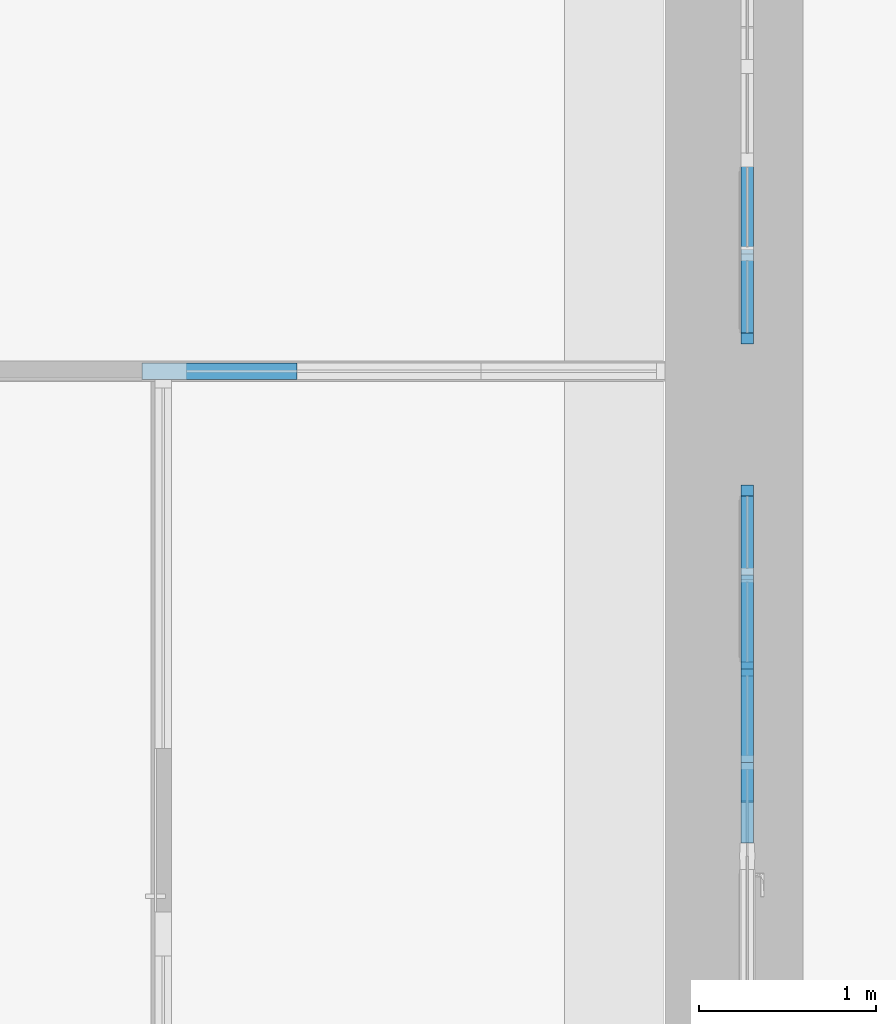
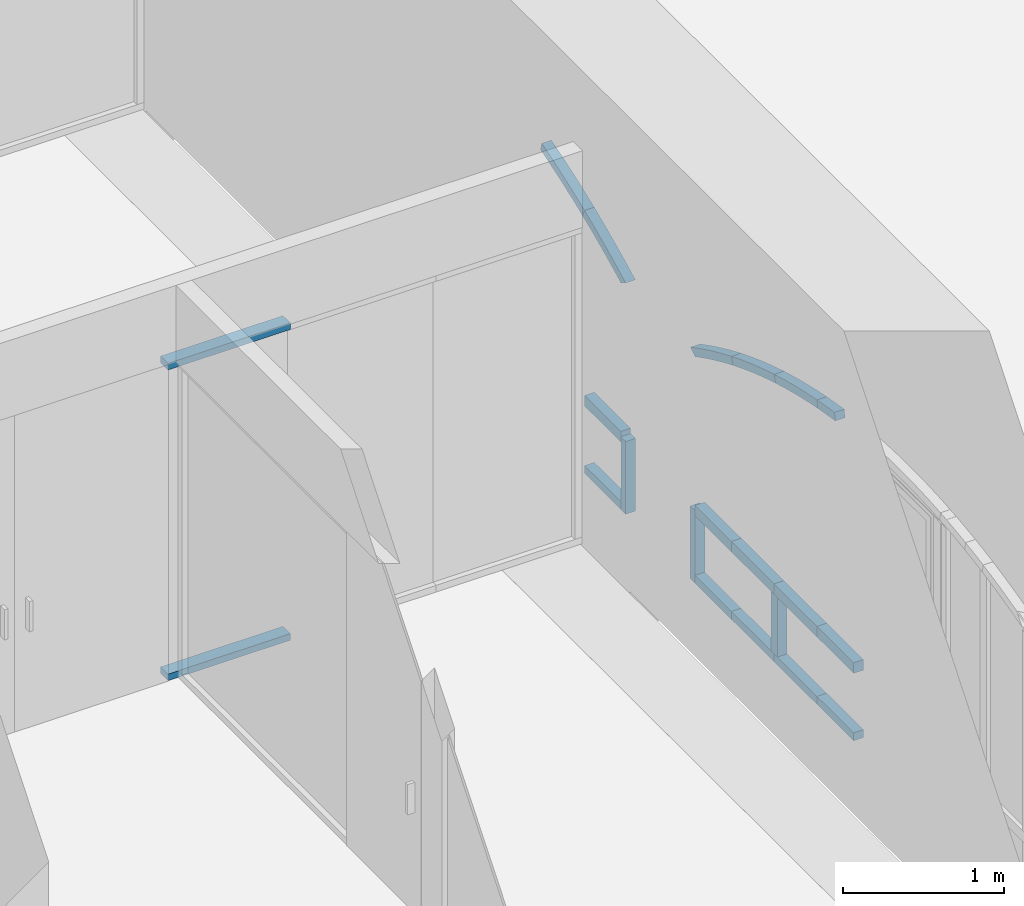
# One storey, part 26 of 88: 21 members, 3 elements without a shape of their own.
"""IFC2X3 building model written with IfcOpenShell, lengths in millimetres."""

import ifcopenshell
import ifcopenshell.guid

model = None  # the IFC model being written
_history = None  # IfcOwnerHistory: only IFC2X3 demands one
_inside = {}  # id of a spatial element -> (the spatial element, [elements in it])
_under = {}  # id of a project, library or spatial element -> (it, [spatial elements below it])
_declared = {}  # id of a project -> (the project, [libraries it declares])
_typed = {}  # id of a type object -> (the type object, [elements of that type])
_made_of = {}  # id of a material, layer set ... -> (it, [elements and type objects made of it])


def new_model(schema):
    """Start an empty IFC model of exactly this schema.

    Asked for "IFC4X3", IfcOpenShell would pick the latest addendum, in which some entities
    have other attributes; the version numbers below select the first issue.
    IFC2X3 requires an IfcOwnerHistory on every rooted entity: one is made here for all.
    """
    global model, _history
    if schema == "IFC4X3":
        model = ifcopenshell.file(schema_version=(4, 3, 0, 0))
    else:
        model = ifcopenshell.file(schema=schema)
    _inside.clear()
    _under.clear()
    _declared.clear()
    _typed.clear()
    _made_of.clear()
    _history = None
    if model.schema == "IFC2X3":
        org = make("IfcOrganization", Name="unknown")
        user = make(
            "IfcPersonAndOrganization",
            ThePerson=make("IfcPerson", FamilyName="unknown"),
            TheOrganization=org,
        )
        app = make(
            "IfcApplication",
            ApplicationDeveloper=org,
            Version="unknown",
            ApplicationFullName="unknown",
            ApplicationIdentifier="unknown",
        )
        _history = make(
            "IfcOwnerHistory",
            OwningUser=user,
            OwningApplication=app,
            ChangeAction="ADDED",
            CreationDate=0,
        )
    return model


def make(cls, **values):
    """One entity of the class cls with the attributes given. An attribute that is None is left unset."""
    return model.create_entity(
        cls, **{name: value for name, value in values.items() if value is not None}
    )


def entity(cls, *values):
    """Any entity or typed value of the class cls, its attributes in the order of the schema. None: left unset."""
    e = model.create_entity(cls)
    for i, value in enumerate(values):
        if value is not None:
            e[i] = value
    return e


def rooted(cls, **values):
    """An entity with a GlobalId (a new one), such as an element, a storey or a relation."""
    return make(cls, GlobalId=ifcopenshell.guid.new(), OwnerHistory=_history, **values)


def si_unit(unit_type, name, prefix=None):
    """IfcSIUnit, for example si_unit("LENGTHUNIT", "METRE", prefix="MILLI")."""
    return make("IfcSIUnit", UnitType=unit_type, Prefix=prefix, Name=name)


def converted_unit(unit_type, name, factor, base, dimensions=None, offset=None):
    """IfcConversionBasedUnit, such as the inch: factor (a typed value) times the base unit."""
    return make(
        "IfcConversionBasedUnit"
        if offset is None
        else "IfcConversionBasedUnitWithOffset",
        ConversionOffset=offset,
        Dimensions=None
        if dimensions is None
        else entity("IfcDimensionalExponents", *dimensions),
        UnitType=unit_type,
        Name=name,
        ConversionFactor=make(
            "IfcMeasureWithUnit", ValueComponent=factor, UnitComponent=base
        ),
    )


def derived_unit(unit_type, elements):
    """IfcDerivedUnit: a product of units, each with its exponent."""
    return make(
        "IfcDerivedUnit",
        Elements=[
            make("IfcDerivedUnitElement", Unit=unit, Exponent=power)
            for unit, power in elements
        ],
        UnitType=unit_type,
    )


def assignment(units):
    """IfcUnitAssignment: the units of a project."""
    return None if units is None else make("IfcUnitAssignment", Units=units)


def point(xyz):
    """IfcCartesianPoint."""
    return None if xyz is None else make("IfcCartesianPoint", Coordinates=xyz)


def direction(xyz):
    """IfcDirection."""
    return None if xyz is None else make("IfcDirection", DirectionRatios=xyz)


def frame(location, z_axis=None, x_axis=None):
    """IfcAxis2Placement3D, a coordinate frame: its origin and axes. An axis left out is left unset."""
    return make(
        "IfcAxis2Placement3D",
        Location=point(location),
        Axis=direction(z_axis),
        RefDirection=direction(x_axis),
    )


def frame_2d(location, x_axis=None):
    """IfcAxis2Placement2D, a coordinate frame in the plane: its origin and x axis."""
    return make(
        "IfcAxis2Placement2D", Location=point(location), RefDirection=direction(x_axis)
    )


def origin():
    """The frame at (0, 0, 0) with its axes left unset."""
    return frame((0.0, 0.0, 0.0))


def place(relative_to, where):
    """IfcLocalPlacement: puts the frame where relative to a parent placement (None: the world)."""
    return make(
        "IfcLocalPlacement", PlacementRelTo=relative_to, RelativePlacement=where
    )


def context(
    kind, dimensions, precision=None, world=None, true_north=None, identifier=None
):
    """IfcGeometricRepresentationContext, for example the 3D "Model" context."""
    return make(
        "IfcGeometricRepresentationContext",
        ContextIdentifier=identifier,
        ContextType=kind,
        CoordinateSpaceDimension=dimensions,
        Precision=precision,
        WorldCoordinateSystem=world,
        TrueNorth=true_north,
    )


def subcontext(parent, identifier, kind, view, scale=None):
    """IfcGeometricRepresentationSubContext, for example "Body" below "Model"."""
    return make(
        "IfcGeometricRepresentationSubContext",
        ContextIdentifier=identifier,
        ContextType=kind,
        ParentContext=parent,
        TargetScale=scale,
        TargetView=view,
    )


def project(units=None, contexts=None):
    """IfcProject with its units and contexts."""
    return rooted(
        "IfcProject",
        Name="project",
        RepresentationContexts=contexts,
        UnitsInContext=assignment(units),
    )


def spatial(cls, under=None, at=None, **own):
    """A site, building, storey or space (cls), placed at a placement, below another one or the project."""
    s = rooted(cls, ObjectPlacement=at, **own)
    if under is not None:
        _under.setdefault(under.id(), (under, []))[1].append(s)
    return s


def polyline(points):
    """IfcPolyline through the points."""
    return make("IfcPolyline", Points=[point(p) for p in points])


def circle_curve(where, radius):
    """IfcCircle in the frame where."""
    return make("IfcCircle", Position=where, Radius=radius)


def parameter(value):
    """IfcParameterValue: where a trimmed curve begins or ends, as a parameter of its basis curve."""
    return model.create_entity("IfcParameterValue", value)


def trimmed(basis, trim1, trim2, sense, master):
    """IfcTrimmedCurve: the piece of a basis curve between two trims."""
    return make(
        "IfcTrimmedCurve",
        BasisCurve=basis,
        Trim1=trim1,
        Trim2=trim2,
        SenseAgreement=sense,
        MasterRepresentation=master,
    )


def segment(curve, same_sense, transition):
    """IfcCompositeCurveSegment."""
    return make(
        "IfcCompositeCurveSegment",
        Transition=transition,
        SameSense=same_sense,
        ParentCurve=curve,
    )


def composite_curve(segments, self_intersect=None):
    """IfcCompositeCurve: segments joined end to end."""
    return make("IfcCompositeCurve", Segments=segments, SelfIntersect=self_intersect)


def profile(cls, at=None, kind="AREA", **sizes):
    """A parametric profile (cls). Its sizes go by their IFC names, for example OverallWidth=200.0."""
    return make(cls, ProfileType=kind, Position=at, **sizes)


def rectangle(**sizes):
    """IfcRectangleProfileDef."""
    return profile("IfcRectangleProfileDef", **sizes)


def outline(outer, holes=None, kind="AREA"):
    """IfcArbitraryClosedProfileDef: a profile drawn as a closed curve; with holes, ...WithVoids."""
    if holes is None:
        return make("IfcArbitraryClosedProfileDef", ProfileType=kind, OuterCurve=outer)
    return make(
        "IfcArbitraryProfileDefWithVoids",
        ProfileType=kind,
        OuterCurve=outer,
        InnerCurves=holes,
    )


def extrude(swept, where, along, depth):
    """IfcExtrudedAreaSolid: the profile swept, set in the frame where, extruded along a direction by depth."""
    return make(
        "IfcExtrudedAreaSolid",
        SweptArea=swept,
        Position=where,
        ExtrudedDirection=direction(along),
        Depth=depth,
    )


def shape(context_of_items, identifier, shape_type, items):
    """IfcShapeRepresentation: the items that make up one representation, for example the "Body"."""
    return make(
        "IfcShapeRepresentation",
        ContextOfItems=context_of_items,
        RepresentationIdentifier=identifier,
        RepresentationType=shape_type,
        Items=items,
    )


def source(mapping_origin, context_of_items, identifier, shape_type, items):
    """IfcRepresentationMap: a shape defined once, which mapped items show again and again."""
    return make(
        "IfcRepresentationMap",
        MappingOrigin=mapping_origin,
        MappedRepresentation=shape(context_of_items, identifier, shape_type, items),
    )


def transform(
    local_origin,
    x_axis=None,
    y_axis=None,
    z_axis=None,
    scale=None,
    scale2=None,
    scale3=None,
    uniform=True,
):
    """IfcCartesianTransformationOperator3D, or its non-uniform kind. x_axis, y_axis, z_axis: its Axis1, 2, 3."""
    if uniform:
        return make(
            "IfcCartesianTransformationOperator3D",
            Axis1=direction(x_axis),
            Axis2=direction(y_axis),
            LocalOrigin=point(local_origin),
            Scale=scale,
            Axis3=direction(z_axis),
        )
    return make(
        "IfcCartesianTransformationOperator3DnonUniform",
        Axis1=direction(x_axis),
        Axis2=direction(y_axis),
        LocalOrigin=point(local_origin),
        Scale=scale,
        Axis3=direction(z_axis),
        Scale2=scale2,
        Scale3=scale3,
    )


def mapped(mapping_source, mapping_target):
    """IfcMappedItem: shows the shape of a source again, moved by a transform."""
    return make(
        "IfcMappedItem", MappingSource=mapping_source, MappingTarget=mapping_target
    )


def material(Name=None, Category=None):
    """IfcMaterial."""
    return make("IfcMaterial", Name=Name, Category=Category)


def made_of(thing, what):
    """Note that an element or type object is made of a material, layer set ...; save() writes the relation."""
    if what is not None:
        _made_of.setdefault(what.id(), (what, []))[1].append(thing)
    return thing


def type_object(cls, material=None, **own):
    """A type object (cls), such as IfcWallType, which elements share."""
    return made_of(rooted(cls, **own), material)


def type_shapes(of_type, sources):
    """Give a type object the sources (RepresentationMaps) that its elements show as mapped items."""
    of_type.RepresentationMaps = sources


def element(
    cls,
    number,
    at=None,
    inside=None,
    cuts=None,
    type_object=None,
    material=None,
    context=None,
    identifier="Body",
    shape_type=None,
    held_by="IfcProductDefinitionShape",
    body=None,
    shapes=None,
    **own,
):
    """One element of the class cls, such as IfcWall. Its Tag is "e" and its number.

    at: its placement. inside: the storey or other place that contains it. cuts: it is an
    opening in that element (IfcRelVoidsElement). A single representation is given by context,
    identifier, shape_type and body (its items); several are given by shapes. held_by: the class
    of the entity that holds the representations. save() writes the other relations.
    """
    e = rooted(cls, Tag="e%d" % number, ObjectPlacement=at, **own)
    if body is not None:
        shapes = [shape(context, identifier, shape_type, body)]
    if shapes is not None:
        e.Representation = make(held_by, Representations=shapes)
    if inside is not None:
        _inside.setdefault(inside.id(), (inside, []))[1].append(e)
    if cuts is not None:
        rooted(
            "IfcRelVoidsElement", RelatingBuildingElement=cuts, RelatedOpeningElement=e
        )
    if type_object is not None:
        _typed.setdefault(type_object.id(), (type_object, []))[1].append(e)
    return made_of(e, material)


def aggregate(whole, parts):
    """IfcRelAggregates: a whole, such as a stair, and the parts it consists of."""
    return rooted("IfcRelAggregates", RelatingObject=whole, RelatedObjects=parts)


def save(model, path):
    """Write the relations noted so far, then the file.

    IfcRelAggregates (storeys below a building ...), IfcRelContainedInSpatialStructure (elements
    in a storey), IfcRelDefinesByType, IfcRelAssociatesMaterial and IfcRelDeclares: one each for
    every whole, place, type object, material and project.
    """
    for whole, parts in _under.values():
        aggregate(whole, parts)
    for where, things in _inside.values():
        rooted(
            "IfcRelContainedInSpatialStructure",
            RelatedElements=things,
            RelatingStructure=where,
        )
    for kind, things in _typed.values():
        rooted("IfcRelDefinesByType", RelatedObjects=things, RelatingType=kind)
    for what, things in _made_of.values():
        rooted("IfcRelAssociatesMaterial", RelatedObjects=things, RelatingMaterial=what)
    for by, libraries in _declared.values():
        rooted("IfcRelDeclares", RelatingContext=by, RelatedDefinitions=libraries)
    model.write(path)


model = new_model("IFC2X3")

# Units and contexts
model_context = context("Model", 3, precision=0.01, world=origin(), true_north=direction((6.123031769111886e-17, 1.0)))
body_context = subcontext(model_context, "Body", "Model", "MODEL_VIEW")
ifc_project = project(units=[si_unit("LENGTHUNIT", "METRE", prefix="MILLI"), si_unit("AREAUNIT", "SQUARE_METRE"), si_unit("VOLUMEUNIT", "CUBIC_METRE"), converted_unit("PLANEANGLEUNIT", "DEGREE", entity("IfcPlaneAngleMeasure", 0.017453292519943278), si_unit("PLANEANGLEUNIT", "RADIAN"), dimensions=[0, 0, 0, 0, 0, 0, 0]), si_unit("MASSUNIT", "GRAM", prefix="KILO"), derived_unit("MASSDENSITYUNIT", [(si_unit("MASSUNIT", "GRAM", prefix="KILO"), 1), (si_unit("LENGTHUNIT", "METRE"), -3)]), derived_unit("IONCONCENTRATIONUNIT", [(si_unit("MASSUNIT", "GRAM", prefix="KILO"), 1), (si_unit("LENGTHUNIT", "METRE"), -3)]), derived_unit("MOMENTOFINERTIAUNIT", [(si_unit("LENGTHUNIT", "METRE"), 4)]), si_unit("TIMEUNIT", "SECOND"), si_unit("FREQUENCYUNIT", "HERTZ"), si_unit("THERMODYNAMICTEMPERATUREUNIT", "DEGREE_CELSIUS"), derived_unit("THERMALTRANSMITTANCEUNIT", [(si_unit("MASSUNIT", "GRAM", prefix="KILO"), 1), (si_unit("THERMODYNAMICTEMPERATUREUNIT", "KELVIN"), -1), (si_unit("TIMEUNIT", "SECOND"), -3)]), derived_unit("THERMALCONDUCTANCEUNIT", [(si_unit("MASSUNIT", "GRAM", prefix="KILO"), 1), (si_unit("THERMODYNAMICTEMPERATUREUNIT", "KELVIN"), -1), (si_unit("TIMEUNIT", "SECOND"), -3), (si_unit("LENGTHUNIT", "METRE"), 1)]), derived_unit("VOLUMETRICFLOWRATEUNIT", [(si_unit("LENGTHUNIT", "METRE", prefix="DECI"), 3), (si_unit("TIMEUNIT", "SECOND"), -1)]), derived_unit("MASSFLOWRATEUNIT", [(si_unit("MASSUNIT", "GRAM", prefix="KILO"), 1), (si_unit("TIMEUNIT", "SECOND"), -1)]), derived_unit("ROTATIONALFREQUENCYUNIT", [(si_unit("TIMEUNIT", "SECOND"), -1)]), si_unit("ELECTRICCURRENTUNIT", "AMPERE"), si_unit("ELECTRICVOLTAGEUNIT", "VOLT"), si_unit("POWERUNIT", "WATT"), si_unit("FORCEUNIT", "NEWTON", prefix="KILO"), si_unit("ILLUMINANCEUNIT", "LUX"), si_unit("LUMINOUSFLUXUNIT", "LUMEN"), si_unit("LUMINOUSINTENSITYUNIT", "CANDELA"), si_unit("ENERGYUNIT", "JOULE"), derived_unit("USERDEFINED", [(si_unit("MASSUNIT", "GRAM", prefix="KILO"), -1), (si_unit("LENGTHUNIT", "METRE"), -2), (si_unit("TIMEUNIT", "SECOND"), 3), (si_unit("LUMINOUSFLUXUNIT", "LUMEN"), 1)]), derived_unit("USERDEFINED", [(si_unit("MASSUNIT", "GRAM", prefix="KILO"), 1), (si_unit("TIMEUNIT", "SECOND"), -3), (si_unit("LENGTHUNIT", "METRE"), 3), (si_unit("ELECTRICCURRENTUNIT", "AMPERE"), -2)]), derived_unit("SOUNDPOWERUNIT", [(si_unit("MASSUNIT", "GRAM", prefix="KILO"), 1), (si_unit("TIMEUNIT", "SECOND"), -3), (si_unit("LENGTHUNIT", "METRE"), 2)]), derived_unit("SOUNDPRESSUREUNIT", [(si_unit("MASSUNIT", "GRAM", prefix="KILO"), 1), (si_unit("LENGTHUNIT", "METRE"), -1), (si_unit("TIMEUNIT", "SECOND"), -2)]), derived_unit("LINEARVELOCITYUNIT", [(si_unit("LENGTHUNIT", "METRE"), 1), (si_unit("TIMEUNIT", "SECOND"), -1)]), si_unit("PRESSUREUNIT", "PASCAL"), derived_unit("USERDEFINED", [(si_unit("MASSUNIT", "GRAM", prefix="KILO"), 1), (si_unit("LENGTHUNIT", "METRE"), -2), (si_unit("TIMEUNIT", "SECOND"), -2)]), derived_unit("LINEARFORCEUNIT", [(si_unit("MASSUNIT", "GRAM", prefix="KILO"), 1), (si_unit("TIMEUNIT", "SECOND"), -2)]), derived_unit("PLANARFORCEUNIT", [(si_unit("MASSUNIT", "GRAM", prefix="KILO"), 1), (si_unit("LENGTHUNIT", "METRE"), -1), (si_unit("TIMEUNIT", "SECOND"), -2)]), derived_unit("SPECIFICHEATCAPACITYUNIT", [(si_unit("THERMODYNAMICTEMPERATUREUNIT", "KELVIN"), -1), (si_unit("LENGTHUNIT", "METRE"), 2), (si_unit("TIMEUNIT", "SECOND"), -2)]), derived_unit("HEATFLUXDENSITYUNIT", [(si_unit("MASSUNIT", "GRAM", prefix="KILO"), 1), (si_unit("TIMEUNIT", "SECOND"), -3)]), derived_unit("HEATINGVALUEUNIT", [(si_unit("LENGTHUNIT", "METRE"), 2), (si_unit("TIMEUNIT", "SECOND"), -2)]), derived_unit("VAPORPERMEABILITYUNIT", [(si_unit("LENGTHUNIT", "METRE"), -1), (si_unit("TIMEUNIT", "SECOND"), 1)]), derived_unit("DYNAMICVISCOSITYUNIT", [(si_unit("MASSUNIT", "GRAM", prefix="KILO"), 1), (si_unit("TIMEUNIT", "SECOND"), -1), (si_unit("LENGTHUNIT", "METRE"), -1)]), derived_unit("THERMALEXPANSIONCOEFFICIENTUNIT", [(si_unit("THERMODYNAMICTEMPERATUREUNIT", "KELVIN"), -1)]), derived_unit("MODULUSOFELASTICITYUNIT", [(si_unit("MASSUNIT", "GRAM", prefix="KILO"), 1), (si_unit("LENGTHUNIT", "METRE"), -1), (si_unit("TIMEUNIT", "SECOND"), -2)]), derived_unit("ISOTHERMALMOISTURECAPACITYUNIT", [(si_unit("MASSUNIT", "GRAM", prefix="KILO"), -1), (si_unit("LENGTHUNIT", "METRE"), 3)]), derived_unit("MOISTUREDIFFUSIVITYUNIT", [(si_unit("TIMEUNIT", "SECOND"), -1), (si_unit("LENGTHUNIT", "METRE"), 2)]), derived_unit("MASSPERLENGTHUNIT", [(si_unit("MASSUNIT", "GRAM", prefix="KILO"), 1), (si_unit("LENGTHUNIT", "METRE"), -1)]), derived_unit("THERMALRESISTANCEUNIT", [(si_unit("MASSUNIT", "GRAM", prefix="KILO"), -1), (si_unit("TIMEUNIT", "SECOND"), 3), (si_unit("THERMODYNAMICTEMPERATUREUNIT", "KELVIN"), 1)]), derived_unit("ACCELERATIONUNIT", [(si_unit("LENGTHUNIT", "METRE"), 1), (si_unit("TIMEUNIT", "SECOND"), -2)]), derived_unit("ANGULARVELOCITYUNIT", [(si_unit("TIMEUNIT", "SECOND"), -1), (si_unit("PLANEANGLEUNIT", "RADIAN"), 1)]), derived_unit("LINEARSTIFFNESSUNIT", [(si_unit("MASSUNIT", "GRAM", prefix="KILO"), 1), (si_unit("TIMEUNIT", "SECOND"), -2)]), derived_unit("WARPINGCONSTANTUNIT", [(si_unit("LENGTHUNIT", "METRE"), 6)]), derived_unit("LINEARMOMENTUNIT", [(si_unit("MASSUNIT", "GRAM", prefix="KILO"), 1), (si_unit("LENGTHUNIT", "METRE"), 1), (si_unit("TIMEUNIT", "SECOND"), -2)]), derived_unit("TORQUEUNIT", [(si_unit("MASSUNIT", "GRAM", prefix="KILO"), 1), (si_unit("LENGTHUNIT", "METRE"), 2), (si_unit("TIMEUNIT", "SECOND"), -2)])], contexts=[model_context])

# Site, building, storey
site_placement = place(None, origin())
site = spatial("IfcSite", under=ifc_project, at=site_placement, Name="Default", CompositionType="ELEMENT")
building_placement = place(site_placement, origin())
building = spatial("IfcBuilding", under=site, at=building_placement, Name="Eesti Rahvusraamatukogu hoone renoveerimise projekteerimistööd", CompositionType="ELEMENT")
storey_placement = place(building_placement, origin())
storey = spatial("IfcBuildingStorey", under=building, at=storey_placement, Name="1. korrus", CompositionType="ELEMENT", Elevation=0.0)

# Curtain wall, members
curtain_wall_type_1 = type_object("IfcCurtainWallType", Name="Curtain Wall:VLS Klaasvahesein profiilita 38db", PredefinedType="NOTDEFINED")
curtain_wall_1_placement = place(storey_placement, origin())
curtain_wall_1 = element("IfcCurtainWall", 1, at=curtain_wall_1_placement, inside=storey, type_object=curtain_wall_type_1, Name="Curtain Wall:VLS Klaasvahesein profiilita 38db", ObjectType="Curtain Wall:VLS Klaasvahesein profiilita 38db")
ifc_material_1 = material(Name="Aluminum")
member_type_1 = type_object("IfcMemberType", Name="Rectangular Mullion:50mm x 92mm", PredefinedType="MULLION", material=ifc_material_1)
shared_shape_1 = source(origin(), body_context, "Body", "SweptSolid", [
    extrude(rectangle(XDim=50.0, YDim=92.0, at=frame_2d((0.0, 3.552713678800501e-15), x_axis=(1.0, 0.0))), frame((-25.0, 0.0, -875.9999999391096), z_axis=(0.0, 0.0, 1.0), x_axis=(-1.0, 0.0, 0.0)), (0.0, 0.0, 1.0), 875.9999999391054),
])
type_shapes(member_type_1, [shared_shape_1])
member_1_placement = place(curtain_wall_1_placement, frame((-45454.000000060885, 18670.0, 0.0), z_axis=(1.0, 0.0, 0.0), x_axis=(0.0, 0.0, -1.0)))
member_1 = element("IfcMember", 2, at=member_1_placement, type_object=member_type_1, material=ifc_material_1, Name="Rectangular Mullion:50mm x 92mm", ObjectType="Rectangular Mullion:50mm x 92mm", context=body_context, shape_type="MappedRepresentation", body=[
    mapped(shared_shape_1, transform((0.0, 0.0, 0.0), scale=1.0)),
])
member_type_2 = type_object("IfcMemberType", Name="Rectangular Mullion:50mm x 92mm", PredefinedType="MULLION", material=ifc_material_1)
shared_shape_2 = source(origin(), body_context, "Body", "SweptSolid", [
    extrude(rectangle(XDim=50.0, YDim=92.0, at=frame_2d((0.0, 3.552713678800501e-15), x_axis=(1.0, 0.0))), frame((-25.0, 0.0, -875.9999999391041), z_axis=(0.0, 0.0, 1.0), x_axis=(-1.0, 0.0, 0.0)), (0.0, 0.0, 1.0), 875.9999999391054),
])
type_shapes(member_type_2, [shared_shape_2])
member_2_placement = place(curtain_wall_1_placement, frame((-46330.0, 18670.0, 2400.0), z_axis=(-1.0, 0.0, 0.0), x_axis=(0.0, 0.0, 1.0)))
member_2 = element("IfcMember", 3, at=member_2_placement, type_object=member_type_2, material=ifc_material_1, Name="Rectangular Mullion:50mm x 92mm", ObjectType="Rectangular Mullion:50mm x 92mm", context=body_context, shape_type="MappedRepresentation", body=[
    mapped(shared_shape_2, transform((0.0, 0.0, 0.0), scale=1.0)),
])
aggregate(curtain_wall_1, [member_1, member_2])

# Curtain wall, member
curtain_wall_type_2 = type_object("IfcCurtainWallType", Name="Curtain Wall:Ak-05", PredefinedType="NOTDEFINED")
curtain_wall_2_placement = place(storey_placement, origin())
curtain_wall_2 = element("IfcCurtainWall", 4, at=curtain_wall_2_placement, inside=storey, type_object=curtain_wall_type_2, Name="Curtain Wall:Ak-05", ObjectType="Curtain Wall:Ak-05")
ifc_material_2 = material(Name="LUMION_dark steel window frames")
member_type_3 = type_object("IfcMemberType", Name="Rectangular Mullion:NEW 60x70mm", PredefinedType="MULLION", material=ifc_material_2)
shared_shape_3 = source(origin(), body_context, "Body", "SweptSolid", [
    extrude(outline(composite_curve([segment(polyline([(-44.19959331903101, -278.92780712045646), (15.800406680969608, -278.9278071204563)]), True, "CONTINUOUS"), segment(trimmed(circle_curve(frame_2d((5479.080973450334, -278.9278071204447), x_axis=(-0.9948301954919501, 0.10155236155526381)), 5463.280566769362), [parameter(3.5622212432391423e-13)], [parameter(5.828569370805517)], True, "PARAMETER"), False, "CONTINUOUS"), segment(polyline([(44.04449918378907, 275.8812362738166), (-15.645312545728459, 281.97437796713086)]), True, "CONTINUOUS"), segment(trimmed(circle_curve(frame_2d((5479.080973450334, -278.9278071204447), x_axis=(-0.9948301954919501, 0.10155236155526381)), 5523.280566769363), [parameter(3.5622212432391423e-13)], [parameter(5.828569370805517)], True, "PARAMETER"), True, "CONTINUOUS")], self_intersect=False)), frame((-44.19959331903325, -35.0, -278.9278071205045), z_axis=(0.0, 1.0, 0.0), x_axis=(-0.9948301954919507, 0.0, 0.10155236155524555)), (0.0, 0.0, 1.0), 69.99999999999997),
])
type_shapes(member_type_3, [shared_shape_3])
member_3_placement = place(curtain_wall_2_placement, frame((-42905.0, 19335.0, 1939.3047106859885), z_axis=(0.0, -0.9256428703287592, -0.37839830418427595), x_axis=(0.0, -0.37839830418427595, 0.9256428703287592)))
member_3 = element("IfcMember", 5, at=member_3_placement, type_object=member_type_3, material=ifc_material_2, Name="Rectangular Mullion:NEW 60x70mm", ObjectType="Rectangular Mullion:NEW 60x70mm", context=body_context, shape_type="MappedRepresentation", body=[
    mapped(shared_shape_3, transform((0.0, 0.0, 0.0), scale=1.0)),
])

# Curtain wall, members
curtain_wall_3_placement = place(storey_placement, origin())
curtain_wall_3 = element("IfcCurtainWall", 6, at=curtain_wall_3_placement, inside=storey, type_object=curtain_wall_type_2, Name="Curtain Wall:Ak-05", ObjectType="Curtain Wall:Ak-05")
member_type_4 = type_object("IfcMemberType", Name="Rectangular Mullion:NEW 60x70mm", PredefinedType="MULLION", material=ifc_material_2)
shared_shape_4 = source(origin(), body_context, "Body", "SweptSolid", [
    extrude(outline(composite_curve([segment(trimmed(circle_curve(frame_2d((4549.812785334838, 3066.2072493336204), x_axis=(-0.8006634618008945, -0.5991143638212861)), 5523.280566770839), [parameter(354.15250498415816)], [parameter(359.99999999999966)], True, "PARAMETER"), True, "CONTINUOUS"), segment(polyline([(127.52384624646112, -242.86947363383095), (175.56365395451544, -206.92261180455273)]), True, "CONTINUOUS"), segment(trimmed(circle_curve(frame_2d((4549.812785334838, 3066.2072493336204), x_axis=(-0.8006634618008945, -0.5991143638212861)), 5463.280566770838), [parameter(354.53073311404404)], [parameter(359.99999999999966)], True, "PARAMETER"), False, "CONTINUOUS"), segment(polyline([(-116.49037438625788, 224.89604271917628), (-186.59712581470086, 224.89604271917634)]), True, "CONTINUOUS")], self_intersect=False)), frame((-43.402905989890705, -35.0, -270.85808154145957), z_axis=(0.0, -1.0, 0.0), x_axis=(-0.800663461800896, 0.0, 0.5991143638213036)), (0.0, 0.0, -1.0), 69.99999999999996),
])
type_shapes(member_type_4, [shared_shape_4])
member_4_placement = place(curtain_wall_3_placement, frame((-42905.0, 17515.0, 1939.304710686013), z_axis=(0.0, -0.9256428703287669, 0.3783983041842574), x_axis=(0.0, 0.3783983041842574, 0.9256428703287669)))
member_4 = element("IfcMember", 7, at=member_4_placement, type_object=member_type_4, material=ifc_material_2, Name="Rectangular Mullion:NEW 60x70mm", ObjectType="Rectangular Mullion:NEW 60x70mm", context=body_context, shape_type="MappedRepresentation", body=[
    mapped(shared_shape_4, transform((0.0, 0.0, 0.0), scale=1.0)),
])
member_type_5 = type_object("IfcMemberType", Name="Rectangular Mullion:NEW 60x70mm", PredefinedType="MULLION", material=ifc_material_2)
shared_shape_5 = source(origin(), body_context, "Body", "SweptSolid", [
    extrude(outline(composite_curve([segment(polyline([(-44.19959331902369, -278.9278071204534), (15.8004066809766, -278.92780712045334)]), True, "CONTINUOUS"), segment(trimmed(circle_curve(frame_2d((5479.0809734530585, -278.9278071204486), x_axis=(-0.9948301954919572, 0.10155236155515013)), 5463.28056677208), [parameter(3.5622212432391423e-13)], [parameter(5.828569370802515)], True, "PARAMETER"), False, "CONTINUOUS"), segment(polyline([(44.04449918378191, 275.88123627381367), (-15.645312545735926, 281.97437796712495)]), True, "CONTINUOUS"), segment(trimmed(circle_curve(frame_2d((5479.0809734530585, -278.9278071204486), x_axis=(-0.9948301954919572, 0.10155236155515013)), 5523.28056677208), [parameter(3.5622212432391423e-13)], [parameter(5.828569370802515)], True, "PARAMETER"), True, "CONTINUOUS")], self_intersect=False)), frame((-44.199593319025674, -35.0, -278.9278071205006), z_axis=(0.0, 1.0, 0.0), x_axis=(-0.994830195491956, 0.0, 0.1015523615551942)), (0.0, 0.0, 1.0), 70.0),
])
type_shapes(member_type_5, [shared_shape_5])
member_5_placement = place(curtain_wall_3_placement, frame((-42905.0, 16985.0, 2125.118079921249), z_axis=(0.0, -0.9592847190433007, 0.2824408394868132), x_axis=(0.0, 0.2824408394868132, 0.9592847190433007)))
member_5 = element("IfcMember", 8, at=member_5_placement, type_object=member_type_5, material=ifc_material_2, Name="Rectangular Mullion:NEW 60x70mm", ObjectType="Rectangular Mullion:NEW 60x70mm", context=body_context, shape_type="MappedRepresentation", body=[
    mapped(shared_shape_5, transform((0.0, 0.0, 0.0), scale=1.0)),
])
member_type_6 = type_object("IfcMemberType", Name="Rectangular Mullion:NEW 60x70mm", PredefinedType="MULLION", material=ifc_material_2)
shared_shape_6 = source(origin(), body_context, "Body", "SweptSolid", [
    extrude(outline(composite_curve([segment(polyline([(-43.38278695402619, -270.80676601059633), (16.61721304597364, -270.8067660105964)]), True, "CONTINUOUS"), segment(trimmed(circle_curve(frame_2d((5479.897779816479, -270.8067660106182), x_axis=(-0.9951275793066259, 0.0985956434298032)), 5463.280566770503), [parameter(3.5622212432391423e-13)], [parameter(5.658307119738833)], True, "PARAMETER"), False, "CONTINUOUS"), segment(polyline([(43.23661433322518, 267.848896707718), (-16.471040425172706, 273.76463531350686)]), True, "CONTINUOUS"), segment(trimmed(circle_curve(frame_2d((5479.897779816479, -270.8067660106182), x_axis=(-0.9951275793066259, 0.0985956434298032)), 5523.280566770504), [parameter(3.5622212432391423e-13)], [parameter(5.658307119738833)], True, "PARAMETER"), True, "CONTINUOUS")], self_intersect=False)), frame((-43.38278695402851, -35.0, -270.8067660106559), z_axis=(0.0, 1.0, 0.0), x_axis=(-0.9951275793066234, 0.0, 0.09859564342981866)), (0.0, 0.0, 1.0), 69.99999999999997),
])
type_shapes(member_type_6, [shared_shape_6])
member_6_placement = place(curtain_wall_3_placement, frame((-42905.0, 16455.0, 2253.111256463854), z_axis=(0.0, -0.9824581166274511, 0.18648337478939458), x_axis=(0.0, 0.18648337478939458, 0.9824581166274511)))
member_6 = element("IfcMember", 9, at=member_6_placement, type_object=member_type_6, material=ifc_material_2, Name="Rectangular Mullion:NEW 60x70mm", ObjectType="Rectangular Mullion:NEW 60x70mm", context=body_context, shape_type="MappedRepresentation", body=[
    mapped(shared_shape_6, transform((0.0, 0.0, 0.0), scale=1.0)),
])

# Member
member_type_7 = type_object("IfcMemberType", Name="Rectangular Mullion:NEW 60x70mm", PredefinedType="MULLION", material=ifc_material_2)
shared_shape_7 = source(origin(), body_context, "Body", "SweptSolid", [
    extrude(outline(composite_curve([segment(polyline([(-43.402905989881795, -270.8580815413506), (16.59709401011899, -270.85808154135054)]), True, "CONTINUOUS"), segment(trimmed(circle_curve(frame_2d((5479.877660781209, -270.8580815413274), x_axis=(-0.9947965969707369, 0.10188096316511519)), 5463.280566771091), [parameter(0.37822812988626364)], [parameter(5.847495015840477)], True, "PARAMETER"), False, "CONTINUOUS"), segment(polyline([(41.46886313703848, 249.85710065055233), (-14.66305115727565, 291.85906243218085)]), True, "CONTINUOUS"), segment(trimmed(circle_curve(frame_2d((5479.877660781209, -270.8580815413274), x_axis=(-0.9947965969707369, 0.10188096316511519)), 5523.280566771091), [parameter(3.5622212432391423e-13)], [parameter(5.847495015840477)], True, "PARAMETER"), True, "CONTINUOUS")], self_intersect=False)), frame((-44.32163578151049, -35.0, -288.84651632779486), z_axis=(0.0, 1.0, 0.0), x_axis=(-0.9947965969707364, 0.0, 0.10188096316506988)), (0.0, 0.0, 1.0), 69.99999999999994),
])
type_shapes(member_type_7, [shared_shape_7])
member_7_placement = place(curtain_wall_2_placement, frame((-42905.0, 18825.0, 1699.770655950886), z_axis=(0.0, -0.882274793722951, -0.47073473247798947), x_axis=(0.0, -0.47073473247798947, 0.882274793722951)))
member_7 = element("IfcMember", 10, at=member_7_placement, type_object=member_type_7, material=ifc_material_2, Name="Rectangular Mullion:NEW 60x70mm", ObjectType="Rectangular Mullion:NEW 60x70mm", context=body_context, shape_type="MappedRepresentation", body=[
    mapped(shared_shape_7, transform((0.0, 0.0, 0.0), scale=1.0)),
])

member_type_8 = type_object("IfcMemberType", Name="Rectangular Mullion:NEW 80x70mm", PredefinedType="MULLION", material=ifc_material_2)
shared_shape_8 = source(origin(), body_context, "Body", "SweptSolid", [
    extrude(rectangle(XDim=80.0, YDim=70.0, at=frame_2d((0.0, -3.552713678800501e-15), x_axis=(1.0, 0.0))), frame((0.0, 0.0, -450.0), z_axis=(0.0, 0.0, 1.0), x_axis=(-1.0, 0.0, 0.0)), (0.0, 0.0, 1.0), 449.9999999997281),
])
type_shapes(member_type_8, [shared_shape_8])
member_8_placement = place(curtain_wall_2_placement, frame((-42905.0, 18885.0, 500.0), z_axis=(0.0, -1.0, 0.0), x_axis=(0.0, 0.0, 1.0)))
member_8 = element("IfcMember", 11, at=member_8_placement, type_object=member_type_8, material=ifc_material_2, Name="Rectangular Mullion:NEW 80x70mm", ObjectType="Rectangular Mullion:NEW 80x70mm", context=body_context, shape_type="MappedRepresentation", body=[
    mapped(shared_shape_8, transform((0.0, 0.0, 0.0), scale=1.0)),
])

member_type_9 = type_object("IfcMemberType", Name="Rectangular Mullion:NEW 80x70mm", PredefinedType="MULLION", material=ifc_material_2)
shared_shape_9 = source(origin(), body_context, "Body", "SweptSolid", [
    extrude(rectangle(XDim=80.0, YDim=70.0, at=frame_2d((0.0, -3.552713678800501e-15), x_axis=(1.0, 0.0))), frame((0.0, 0.0, -530.0), z_axis=(0.0, 0.0, 1.0), x_axis=(-1.0, 0.0, 0.0)), (0.0, 0.0, 1.0), 530.0000000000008),
])
type_shapes(member_type_9, [shared_shape_9])
member_9_placement = place(curtain_wall_3_placement, frame((-42905.0, 16985.0, 500.0), z_axis=(0.0, -1.0, 0.0), x_axis=(0.0, 0.0, 1.0)))
member_9 = element("IfcMember", 12, at=member_9_placement, type_object=member_type_9, material=ifc_material_2, Name="Rectangular Mullion:NEW 80x70mm", ObjectType="Rectangular Mullion:NEW 80x70mm", context=body_context, shape_type="MappedRepresentation", body=[
    mapped(shared_shape_9, transform((0.0, 0.0, 0.0), scale=1.0)),
])

member_10_placement = place(curtain_wall_3_placement, frame((-42905.0, 16455.0, 500.0), z_axis=(0.0, -1.0, 0.0), x_axis=(0.0, 0.0, 1.0)))
member_10 = element("IfcMember", 13, at=member_10_placement, type_object=member_type_9, material=ifc_material_2, Name="Rectangular Mullion:NEW 80x70mm", ObjectType="Rectangular Mullion:NEW 80x70mm", context=body_context, shape_type="MappedRepresentation", body=[
    mapped(shared_shape_9, transform((0.0, 0.0, 0.0), scale=1.0)),
])

member_type_10 = type_object("IfcMemberType", Name="Rectangular Mullion:NEW 80x70mm", PredefinedType="MULLION", material=ifc_material_2)
shared_shape_10 = source(origin(), body_context, "Body", "SweptSolid", [
    extrude(rectangle(XDim=80.0, YDim=70.0, at=frame_2d((0.0, -3.552713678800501e-15), x_axis=(1.0, 0.0))), frame((0.0, 0.0, -455.0), z_axis=(0.0, 0.0, 1.0), x_axis=(-1.0, 0.0, 0.0)), (0.0, 0.0, 1.0), 455.0000000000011),
])
type_shapes(member_type_10, [shared_shape_10])
member_11_placement = place(curtain_wall_3_placement, frame((-42905.0, 16000.0, 500.0), z_axis=(0.0, -1.0, 0.0), x_axis=(0.0, 0.0, 1.0)))
member_11 = element("IfcMember", 14, at=member_11_placement, type_object=member_type_10, material=ifc_material_2, Name="Rectangular Mullion:NEW 80x70mm", ObjectType="Rectangular Mullion:NEW 80x70mm", context=body_context, shape_type="MappedRepresentation", body=[
    mapped(shared_shape_10, transform((0.0, 0.0, 0.0), scale=1.0)),
])

member_type_11 = type_object("IfcMemberType", Name="Rectangular Mullion:NEW 80x70mm", PredefinedType="MULLION", material=ifc_material_2)
shared_shape_11 = source(origin(), body_context, "Body", "SweptSolid", [
    extrude(rectangle(XDim=80.0, YDim=70.0, at=frame_2d((0.0, -3.552713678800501e-15), x_axis=(1.0, 0.0))), frame((0.0, 0.0, -450.0), z_axis=(0.0, 0.0, 1.0), x_axis=(-1.0, 0.0, 0.0)), (0.0, 0.0, 1.0), 449.9999999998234),
])
type_shapes(member_type_11, [shared_shape_11])
member_12_placement = place(curtain_wall_3_placement, frame((-42905.0, 17515.0, 500.0), z_axis=(0.0, -1.0, 0.0), x_axis=(0.0, 0.0, 1.0)))
member_12 = element("IfcMember", 15, at=member_12_placement, type_object=member_type_11, material=ifc_material_2, Name="Rectangular Mullion:NEW 80x70mm", ObjectType="Rectangular Mullion:NEW 80x70mm", context=body_context, shape_type="MappedRepresentation", body=[
    mapped(shared_shape_11, transform((0.0, 0.0, 0.0), scale=1.0)),
])

member_type_12 = type_object("IfcMemberType", Name="Rectangular Mullion:NEW 80x70mm", PredefinedType="MULLION", material=ifc_material_2)
shared_shape_12 = source(origin(), body_context, "Body", "SweptSolid", [
    extrude(rectangle(XDim=80.0, YDim=70.0, at=frame_2d((0.0, 3.552713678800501e-15), x_axis=(1.0, 0.0))), frame((0.0, 0.0, -450.0), z_axis=(0.0, 0.0, 1.0), x_axis=(-1.0, 0.0, 0.0)), (0.0, 0.0, 1.0), 450.00000000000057),
])
type_shapes(member_type_12, [shared_shape_12])
member_13_placement = place(curtain_wall_3_placement, frame((-42905.0, 16985.0, 10.0), z_axis=(0.0, 0.0, -1.0), x_axis=(0.0, -1.0, 0.0)))
member_13 = element("IfcMember", 16, at=member_13_placement, type_object=member_type_12, material=ifc_material_2, Name="Rectangular Mullion:NEW 80x70mm", ObjectType="Rectangular Mullion:NEW 80x70mm", context=body_context, shape_type="MappedRepresentation", body=[
    mapped(shared_shape_12, transform((0.0, 0.0, 0.0), scale=1.0)),
])

member_type_13 = type_object("IfcMemberType", Name="Rectangular Mullion:NEW 60x70mm", PredefinedType="MULLION", material=ifc_material_2)
shared_shape_13 = source(origin(), body_context, "Body", "SweptSolid", [
    extrude(rectangle(XDim=60.0, YDim=70.0, at=frame_2d((0.0, 3.552713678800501e-15), x_axis=(1.0, 0.0))), frame((-30.0, 0.0, -550.0), z_axis=(0.0, 0.0, 1.0), x_axis=(-1.0, 0.0, 0.0)), (0.0, 0.0, 1.0), 550.0000000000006),
])
type_shapes(member_type_13, [shared_shape_13])
member_14_placement = place(curtain_wall_2_placement, frame((-42905.0, 18825.0, -50.0), z_axis=(0.0, 0.0, -1.0), x_axis=(0.0, -1.0, 0.0)))
member_14 = element("IfcMember", 17, at=member_14_placement, type_object=member_type_13, material=ifc_material_2, Name="Rectangular Mullion:NEW 60x70mm", ObjectType="Rectangular Mullion:NEW 60x70mm", context=body_context, shape_type="MappedRepresentation", body=[
    mapped(shared_shape_13, transform((0.0, 0.0, 0.0), scale=1.0)),
])

member_type_14 = type_object("IfcMemberType", Name="Rectangular Mullion:NEW 60x70mm", PredefinedType="MULLION", material=ifc_material_2)
shared_shape_14 = source(origin(), body_context, "Body", "SweptSolid", [
    extrude(rectangle(XDim=60.0, YDim=70.0, at=frame_2d((0.0, 3.552713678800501e-15), x_axis=(1.0, 0.0))), frame((-30.0, 0.0, -550.0), z_axis=(0.0, 0.0, 1.0), x_axis=(-1.0, 0.0, 0.0)), (0.0, 0.0, 1.0), 550.0000000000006),
])
type_shapes(member_type_14, [shared_shape_14])
member_15_placement = place(curtain_wall_3_placement, frame((-42905.0, 18025.0, 500.0), z_axis=(0.0, 0.0, 1.0), x_axis=(0.0, 1.0, 0.0)))
member_15 = element("IfcMember", 18, at=member_15_placement, type_object=member_type_14, material=ifc_material_2, Name="Rectangular Mullion:NEW 60x70mm", ObjectType="Rectangular Mullion:NEW 60x70mm", context=body_context, shape_type="MappedRepresentation", body=[
    mapped(shared_shape_14, transform((0.0, 0.0, 0.0), scale=1.0)),
])

member_type_15 = type_object("IfcMemberType", Name="Rectangular Mullion:NEW 60x70mm", PredefinedType="MULLION", material=ifc_material_2)
shared_shape_15 = source(origin(), body_context, "Body", "SweptSolid", [
    extrude(rectangle(XDim=60.0, YDim=70.0, at=frame_2d((0.0, 3.552713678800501e-15), x_axis=(1.0, 0.0))), frame((-30.0, 0.0, -450.0), z_axis=(0.0, 0.0, 1.0), x_axis=(-1.0, 0.0, 0.0)), (0.0, 0.0, 1.0), 449.9999999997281),
])
type_shapes(member_type_15, [shared_shape_15])
member_16_placement = place(curtain_wall_2_placement, frame((-42905.0, 19335.0, -50.0), z_axis=(0.0, 1.0, 0.0), x_axis=(0.0, 0.0, -1.0)))
member_16 = element("IfcMember", 19, at=member_16_placement, type_object=member_type_15, material=ifc_material_2, Name="Rectangular Mullion:NEW 60x70mm", ObjectType="Rectangular Mullion:NEW 60x70mm", context=body_context, shape_type="MappedRepresentation", body=[
    mapped(shared_shape_15, transform((0.0, 0.0, 0.0), scale=1.0)),
])

aggregate(curtain_wall_2, [member_3, member_7, member_8, member_14, member_16])

member_type_16 = type_object("IfcMemberType", Name="Rectangular Mullion:NEW 60x70mm", PredefinedType="MULLION", material=ifc_material_2)
shared_shape_16 = source(origin(), body_context, "Body", "SweptSolid", [
    extrude(rectangle(XDim=60.0, YDim=70.0, at=frame_2d((0.0, 3.552713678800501e-15), x_axis=(1.0, 0.0))), frame((-30.0, 0.0, -530.0), z_axis=(0.0, 0.0, 1.0), x_axis=(-1.0, 0.0, 0.0)), (0.0, 0.0, 1.0), 530.0000000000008),
])
type_shapes(member_type_16, [shared_shape_16])
member_17_placement = place(curtain_wall_3_placement, frame((-42905.0, 16985.0, -50.0), z_axis=(0.0, 1.0, 0.0), x_axis=(0.0, 0.0, -1.0)))
member_17 = element("IfcMember", 20, at=member_17_placement, type_object=member_type_16, material=ifc_material_2, Name="Rectangular Mullion:NEW 60x70mm", ObjectType="Rectangular Mullion:NEW 60x70mm", context=body_context, shape_type="MappedRepresentation", body=[
    mapped(shared_shape_16, transform((0.0, 0.0, 0.0), scale=1.0)),
])

member_type_17 = type_object("IfcMemberType", Name="Rectangular Mullion:NEW 60x70mm", PredefinedType="MULLION", material=ifc_material_2)
shared_shape_17 = source(origin(), body_context, "Body", "SweptSolid", [
    extrude(rectangle(XDim=60.0, YDim=70.0, at=frame_2d((0.0, 3.552713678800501e-15), x_axis=(1.0, 0.0))), frame((-30.0, 0.0, -530.0), z_axis=(0.0, 0.0, 1.0), x_axis=(-1.0, 0.0, 0.0)), (0.0, 0.0, 1.0), 530.0000000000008),
])
type_shapes(member_type_17, [shared_shape_17])
member_18_placement = place(curtain_wall_3_placement, frame((-42905.0, 17515.0, -50.0), z_axis=(0.0, 1.0, 0.0), x_axis=(0.0, 0.0, -1.0)))
member_18 = element("IfcMember", 21, at=member_18_placement, type_object=member_type_17, material=ifc_material_2, Name="Rectangular Mullion:NEW 60x70mm", ObjectType="Rectangular Mullion:NEW 60x70mm", context=body_context, shape_type="MappedRepresentation", body=[
    mapped(shared_shape_17, transform((0.0, 0.0, 0.0), scale=1.0)),
])

member_type_18 = type_object("IfcMemberType", Name="Rectangular Mullion:NEW 60x70mm", PredefinedType="MULLION", material=ifc_material_2)
shared_shape_18 = source(origin(), body_context, "Body", "SweptSolid", [
    extrude(rectangle(XDim=60.0, YDim=70.0, at=frame_2d((0.0, 3.552713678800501e-15), x_axis=(1.0, 0.0))), frame((-30.0, 0.0, -455.0), z_axis=(0.0, 0.0, 1.0), x_axis=(-1.0, 0.0, 0.0)), (0.0, 0.0, 1.0), 455.0000000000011),
])
type_shapes(member_type_18, [shared_shape_18])
member_19_placement = place(curtain_wall_3_placement, frame((-42905.0, 16455.0, -50.0), z_axis=(0.0, 1.0, 0.0), x_axis=(0.0, 0.0, -1.0)))
member_19 = element("IfcMember", 22, at=member_19_placement, type_object=member_type_18, material=ifc_material_2, Name="Rectangular Mullion:NEW 60x70mm", ObjectType="Rectangular Mullion:NEW 60x70mm", context=body_context, shape_type="MappedRepresentation", body=[
    mapped(shared_shape_18, transform((0.0, 0.0, 0.0), scale=1.0)),
])

member_type_19 = type_object("IfcMemberType", Name="Rectangular Mullion:NEW 60x70mm", PredefinedType="MULLION", material=ifc_material_2)
shared_shape_19 = source(origin(), body_context, "Body", "SweptSolid", [
    extrude(rectangle(XDim=60.0, YDim=70.0, at=frame_2d((0.0, 3.552713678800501e-15), x_axis=(1.0, 0.0))), frame((-30.0, 0.0, -450.0), z_axis=(0.0, 0.0, 1.0), x_axis=(-1.0, 0.0, 0.0)), (0.0, 0.0, 1.0), 449.9999999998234),
])
type_shapes(member_type_19, [shared_shape_19])
member_20_placement = place(curtain_wall_3_placement, frame((-42905.0, 17965.0, -50.0), z_axis=(0.0, 1.0, 0.0), x_axis=(0.0, 0.0, -1.0)))
member_20 = element("IfcMember", 23, at=member_20_placement, type_object=member_type_19, material=ifc_material_2, Name="Rectangular Mullion:NEW 60x70mm", ObjectType="Rectangular Mullion:NEW 60x70mm", context=body_context, shape_type="MappedRepresentation", body=[
    mapped(shared_shape_19, transform((0.0, 0.0, 0.0), scale=1.0)),
])

member_type_20 = type_object("IfcMemberType", Name="Rectangular Mullion:NEW 60x70mm", PredefinedType="MULLION", material=ifc_material_2)
shared_shape_20 = source(origin(), body_context, "Body", "SweptSolid", [
    extrude(outline(composite_curve([segment(polyline([(-32.202468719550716, -109.97239538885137), (27.79753128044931, -109.97239538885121)]), True, "CONTINUOUS"), segment(trimmed(circle_curve(frame_2d((5491.078098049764, -109.97239538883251), x_axis=(-0.9991981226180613, 0.04003887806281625)), 5463.280566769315), [parameter(3.5622212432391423e-13)], [parameter(2.294672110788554)], True, "PARAMETER"), False, "CONTINUOUS"), segment(polyline([(32.17841239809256, 108.77122904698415), (-27.773474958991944, 111.17356173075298)]), True, "CONTINUOUS"), segment(trimmed(circle_curve(frame_2d((5491.078098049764, -109.97239538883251), x_axis=(-0.9991981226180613, 0.04003887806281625)), 5523.280566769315), [parameter(3.5622212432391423e-13)], [parameter(2.294672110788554)], True, "PARAMETER"), True, "CONTINUOUS")], self_intersect=False)), frame((-32.202468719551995, -35.0, -109.97239538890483), z_axis=(0.0, 1.0, 0.0), x_axis=(-0.9991981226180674, 0.0, 0.04003887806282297)), (0.0, 0.0, 1.0), 69.99999999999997),
])
type_shapes(member_type_20, [shared_shape_20])
member_21_placement = place(curtain_wall_3_placement, frame((-42905.0, 16236.907425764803, 2290.0), z_axis=(0.0, -0.9891368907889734, 0.14699731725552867), x_axis=(0.0, 0.14699731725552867, 0.9891368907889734)))
member_21 = element("IfcMember", 24, at=member_21_placement, type_object=member_type_20, material=ifc_material_2, Name="Rectangular Mullion:NEW 60x70mm", ObjectType="Rectangular Mullion:NEW 60x70mm", context=body_context, shape_type="MappedRepresentation", body=[
    mapped(shared_shape_20, transform((0.0, 0.0, 0.0), scale=1.0)),
])

aggregate(curtain_wall_3, [member_4, member_5, member_6, member_9, member_10, member_11, member_12, member_13, member_15, member_18, member_17, member_19, member_20, member_21])

save(model, "model.ifc")
